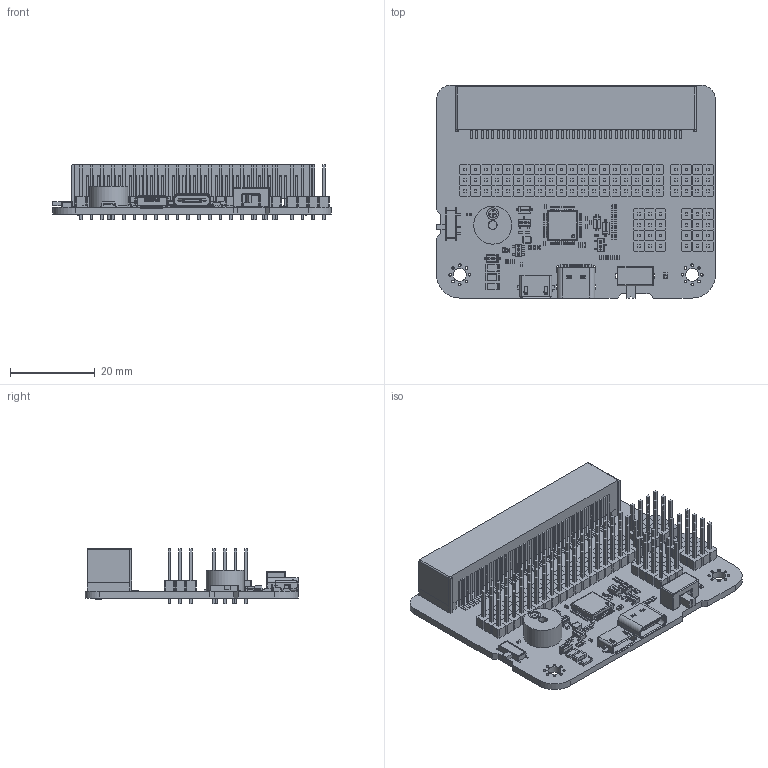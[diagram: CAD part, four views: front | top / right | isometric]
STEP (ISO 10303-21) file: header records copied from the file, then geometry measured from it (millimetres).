
FILE_DESCRIPTION(('Open CASCADE Model'),'2;1');
FILE_NAME('Open CASCADE Shape Model','2025-12-25T13:08:41',('Author'),( 'Open CASCADE'),'Open CASCADE STEP processor 6.8','Open CASCADE 6.8' ,'Unknown');
FILE_SCHEMA(('AUTOMOTIVE_DESIGN { 1 0 10303 214 1 1 1 1 }'));
Length unit declared in the file: millimetre
Products named in the file (2097): PCB; Board; D18; SOD123; D17; D16; C14; CAPC1005(0402); D15; RESC1005(0402)_RGB4210752; D14; D13; D12; D11; D10; D9; D8; D7; D6; USB2; TYPEC; Open CASCADE STEP translator 6.8 1.16.1.1; Open CASCADE STEP translator 6.8 1.16.1.2; Open CASCADE STEP translator 6.8 1.16.1.3; Open CASCADE STEP translator 6.8 1.16.1.4; Open CASCADE STEP translator 6.8 1.16.1.5; Open CASCADE STEP translator 6.8 1.16.1.6; Open CASCADE STEP translator 6.8 1.16.1.7; Open CASCADE STEP translator 6.8 1.16.1.8; Open CASCADE STEP translator 6.8 1.16.1.9; Open CASCADE STEP translator 6.8 1.16.1.10; Open CASCADE STEP translator 6.8 1.16.1.11; Open CASCADE STEP translator 6.8 1.16.1.12; Open CASCADE STEP translator 6.8 1.16.1.13; Open CASCADE STEP translator 6.8 1.16.1.14; Open CASCADE STEP translator 6.8 1.16.1.15; Open CASCADE STEP translator 6.8 1.16.1.16; Open CASCADE STEP translator 6.8 1.16.1.17; Open CASCADE STEP translator 6.8 1.16.1.18; Open CASCADE STEP translator 6.8 1.16.1.19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
Assembly tree (2314 placements, depth 9):
  PCB
    Board
    D18
      SOD123
    D17
      SOD123
    D16
      SOD123
    C14
      CAPC1005(0402)
    D15
      RESC1005(0402)_RGB4210752
    D14
      RESC1005(0402)_RGB4210752
    D13
      RESC1005(0402)_RGB4210752
    D12
      RESC1005(0402)_RGB4210752
    D11
      RESC1005(0402)_RGB4210752
    D10
      RESC1005(0402)_RGB4210752
    D9
      RESC1005(0402)_RGB4210752
    D8
      RESC1005(0402)_RGB4210752
    D7
      RESC1005(0402)_RGB4210752
    D6
      RESC1005(0402)_RGB4210752
    USB2
      TYPEC
        Open CASCADE STEP translator 6.8 1.16.1.1
        Open CASCADE STEP translator 6.8 1.16.1.2
        Open CASCADE STEP translator 6.8 1.16.1.3
        Open CASCADE STEP translator 6.8 1.16.1.4
        Open CASCADE STEP translator 6.8 1.16.1.5
        Open CASCADE STEP translator 6.8 1.16.1.6
        Open CASCADE STEP translator 6.8 1.16.1.7
        Open CASCADE STEP translator 6.8 1.16.1.8
        Open CASCADE STEP translator 6.8 1.16.1.9
        Open CASCADE STEP translator 6.8 1.16.1.10
        Open CASCADE STEP translator 6.8 1.16.1.11
        Open CASCADE STEP translator 6.8 1.16.1.12
        Open CASCADE STEP translator 6.8 1.16.1.13
        Open CASCADE STEP translator 6.8 1.16.1.14
        Open CASCADE STEP translator 6.8 1.16.1.15
        Open CASCADE STEP translator 6.8 1.16.1.16
        Open CASCADE STEP translator 6.8 1.16.1.17
        Open CASCADE STEP translator 6.8 1.16.1.18
        Open CASCADE STEP translator 6.8 1.16.1.19
        Open CASCADE STEP translator 6.8 1.16.1.20
        Open CASCADE STEP translator 6.8 1.16.1.21
        Open CASCADE STEP translator 6.8 1.16.1.22
        Open CASCADE STEP translator 6.8 1.16.1.23
        Open CASCADE STEP translator 6.8 1.16.1.24
        Open CASCADE STEP translator 6.8 1.16.1.25
        Open CASCADE STEP translator 6.8 1.16.1.26
        Open CASCADE STEP translator 6.8 1.16.1.27
        Open CASCADE STEP translator 6.8 1.16.1.28
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Bounding box: 66 x 50.62 x 13.2 mm (x, y, z)
Volume: 11965 mm3; surface area: 20401.3 mm2
Topology: 341 solids, 341 shells, 6674 faces, 18046 edges, 17614 vertices
Faces by surface type: plane 4380, cylinder 1410, bspline 457, sphere 344, torus 75, cone 8
Full cylindrical faces by diameter (mm): 0.6 x21, 0.65 x2, 0.7 x2, 0.9 x97, 1.5 x2, 1.6 x2, 2 x1, 3.1 x2, 9 x1
Entity records: 327824 total; most frequent: CARTESIAN_POINT 114622, DIRECTION 34366, LINE 20374, VECTOR 20374, ORIENTED_EDGE 15712, PCURVE 15712, DEFINITIONAL_REPRESENTATION 15712, EDGE_CURVE 7856
